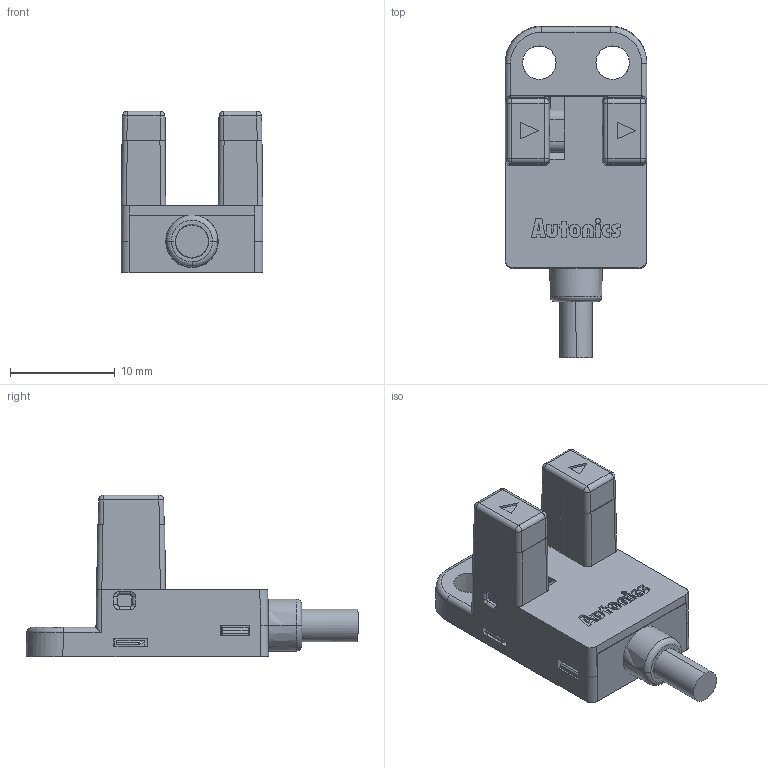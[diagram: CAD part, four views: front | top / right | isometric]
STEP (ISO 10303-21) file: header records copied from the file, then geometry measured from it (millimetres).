
FILE_DESCRIPTION (( 'STEP AP214' ), '1' );
FILE_NAME ('BS5-Y1M_BS5-Y1M-P_BS5-Y1R_BS5-Y1R-P.STEP', '2020-03-30T03:03:35', ( 'aa17241' ), ( '' ), 'SwSTEP 2.0', 'SolidWorks 2018', '' );
FILE_SCHEMA (( 'AUTOMOTIVE_DESIGN' ));
Length unit declared in the file: millimetre
Products named in the file (1): BS5-Y1M_BS5-Y1M-P_BS5-Y1R_BS5-Y1R-P
Bounding box: 13.5 x 31.65 x 15.4 mm (x, y, z)
Volume: 2154.7 mm3; surface area: 1628.3 mm2
Topology: 1 solids, 2 shells, 320 faces, 822 edges, 524 vertices
Faces by surface type: plane 188, cylinder 67, bspline 34, cone 19, sphere 10, torus 2
Entity records: 10650 total; most frequent: CARTESIAN_POINT 3121, ORIENTED_EDGE 1644, DIRECTION 1317, EDGE_CURVE 822, LINE 573, VECTOR 573, VERTEX_POINT 524, AXIS2_PLACEMENT_3D 372
